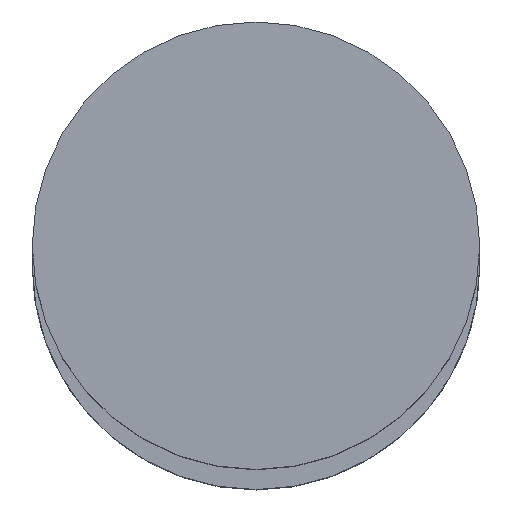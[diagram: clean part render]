
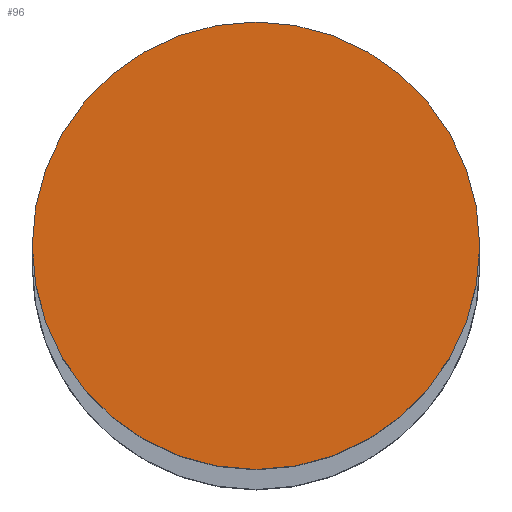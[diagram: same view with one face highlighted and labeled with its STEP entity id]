
A CAD part, top view. The second image highlights one B-rep face of the part: STEP entity #96.
In plain terms, the highlighted planar face has unit normal (0, 0, 1).
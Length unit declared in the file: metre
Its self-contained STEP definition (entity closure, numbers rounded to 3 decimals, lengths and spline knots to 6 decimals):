
#96=ADVANCED_FACE('25:217',(#186),#187,.T.);
#186=FACE_OUTER_BOUND('',#273,.T.);
#187=PLANE('',#274);
#273=EDGE_LOOP('',(#439,#440));
#274=AXIS2_PLACEMENT_3D('',#441,#442,#443);
#439=ORIENTED_EDGE('',*,*,#537,.F.);
#440=ORIENTED_EDGE('',*,*,#524,.F.);
#441=CARTESIAN_POINT('',(0.0,0.0,3.464));
#442=DIRECTION('',(0.0,0.0,1.0));
#443=DIRECTION('',(1.0,0.0,0.0));
#524=EDGE_CURVE('',#630,#632,#633,.F.);
#537=EDGE_CURVE('',#632,#630,#652,.F.);
#630=VERTEX_POINT('',#762);
#632=VERTEX_POINT('',#765);
#633=CIRCLE('',#766,0.0155);
#652=CIRCLE('',#789,0.0155);
#762=CARTESIAN_POINT('',(0.015408,0.000095,3.464));
#765=CARTESIAN_POINT('',(-0.015592,0.000095,3.464));
#766=AXIS2_PLACEMENT_3D('',#889,#890,#891);
#789=AXIS2_PLACEMENT_3D('',#911,#912,#913);
#889=CARTESIAN_POINT('',(-0.000092,0.000095,3.464));
#890=DIRECTION('',(0.0,0.0,1.0));
#891=DIRECTION('',(1.0,0.0,0.0));
#911=CARTESIAN_POINT('',(-0.000092,0.000095,3.464));
#912=DIRECTION('',(0.0,0.0,1.0));
#913=DIRECTION('',(1.0,0.0,0.0));
